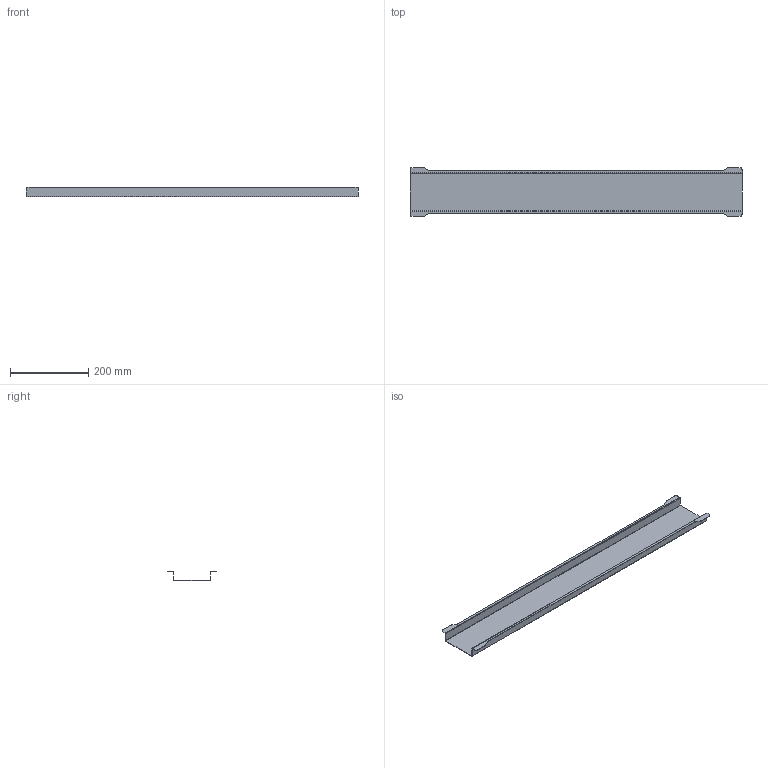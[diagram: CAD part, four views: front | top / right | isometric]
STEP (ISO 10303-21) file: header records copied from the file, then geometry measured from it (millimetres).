
FILE_DESCRIPTION(('HOOPS Exchange Step'),'2;1');
FILE_NAME('/var/folders/r4/s0r0lcy57n11x0t2_j65fx1c0000gn/T/com.shapr3d.shapr/export/temp_export','2022-09-06T09:42:38+02:00',('produktion'),('Shapr3D Limited'),'HOOPS Exchange 2022.0','Shapr3D','Authorized');
FILE_SCHEMA( ('AP203_CONFIGURATION_CONTROLLED_3D_DESIGN_OF_MECHANICAL_PARTS_AND_ASSEMBLIES_MIM_LF') );
Length unit declared in the file: millimetre
Products named in the file (2): BOXIT E-MORE S; root
Assembly tree (1 placements, depth 2):
  root
    BOXIT E-MORE S
Bounding box: 850 x 125 x 25 mm (x, y, z)
Volume: 133921.5 mm3; surface area: 269884.1 mm2
Topology: 1 solids, 1 shells, 42 faces, 120 edges, 80 vertices
Faces by surface type: plane 22, cylinder 20
Entity records: 1427 total; most frequent: DIRECTION 248, CARTESIAN_POINT 244, ORIENTED_EDGE 240, EDGE_CURVE 120, AXIS2_PLACEMENT_3D 84, VERTEX_POINT 80, VECTOR 80, LINE 80
